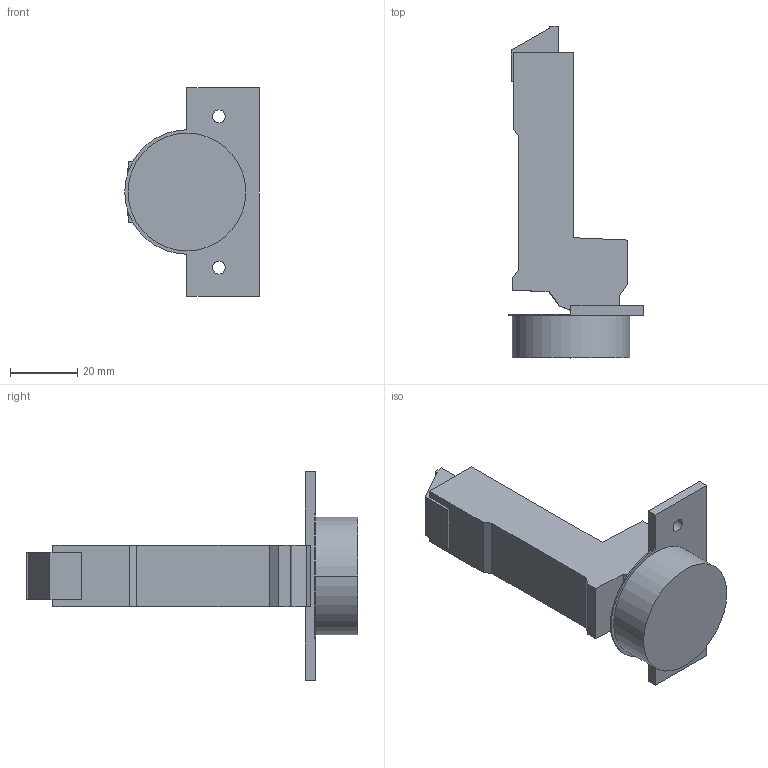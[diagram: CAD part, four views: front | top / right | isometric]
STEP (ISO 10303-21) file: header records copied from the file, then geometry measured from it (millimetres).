
FILE_DESCRIPTION (( 'STEP AP214' ), '1' );
FILE_NAME ('Scharnier T Click-on 95° B_BB, K19.step', '2010-12-06T09:50:29', ( 'grass' ), ( '' ), 'SwSTEP 2.0', 'SolidWorks 2010', '' );
FILE_SCHEMA (( 'AUTOMOTIVE_DESIGN' ));
Length unit declared in the file: millimetre
Products named in the file (1): Scharnier T Click-on 95° B_BB, K19
Bounding box: 40 x 98.7 x 62 mm (x, y, z)
Volume: 45204.6 mm3; surface area: 12512.2 mm2
Topology: 1 solids, 1 shells, 51 faces, 135 edges, 90 vertices
Faces by surface type: plane 37, cylinder 14
Entity records: 1619 total; most frequent: CARTESIAN_POINT 277, ORIENTED_EDGE 270, DIRECTION 267, EDGE_CURVE 135, VECTOR 107, LINE 107, VERTEX_POINT 90, AXIS2_PLACEMENT_3D 80
